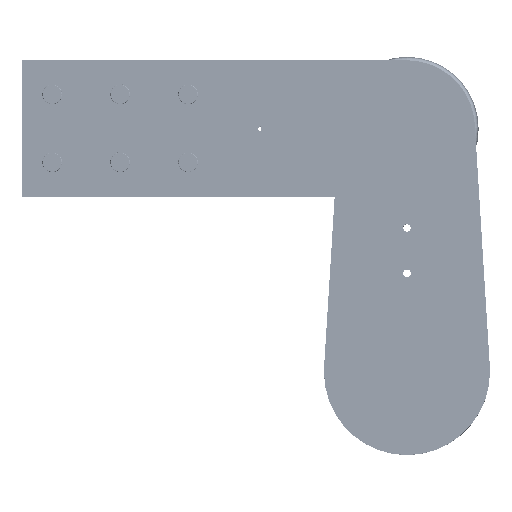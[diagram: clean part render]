
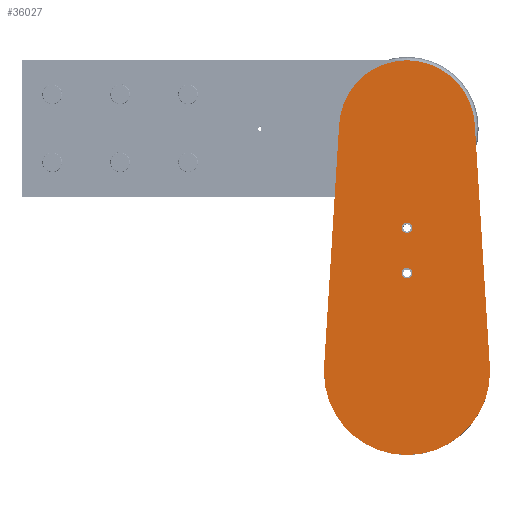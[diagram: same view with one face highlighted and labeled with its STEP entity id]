
A CAD part, top view. The second image highlights one B-rep face of the part: STEP entity #36027.
In plain terms, the highlighted planar face has unit normal (0, 0, 1) as drawn and (0, 0, -1) by its records, which use the part's own axes.
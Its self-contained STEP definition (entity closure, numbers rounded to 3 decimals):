
#807 = DIRECTION ( 'NONE',  ( 1., 0., 0. ) ) ;
#2172 = AXIS2_PLACEMENT_3D ( 'NONE', #74701, #27558, #7900 ) ;
#2453 = EDGE_CURVE ( 'NONE', #76668, #9644, #65711, .T. ) ;
#3041 = DIRECTION ( 'NONE',  ( 1., 0., 0. ) ) ;
#3569 = CARTESIAN_POINT ( 'NONE',  ( 3.5, 95.5, 0. ) ) ;
#3696 = AXIS2_PLACEMENT_3D ( 'NONE', #78602, #78317, #17866 ) ;
#4338 = EDGE_CURVE ( 'NONE', #38020, #83416, #57186, .T. ) ;
#6590 = VERTEX_POINT ( 'NONE', #59150 ) ;
#7900 = DIRECTION ( 'NONE',  ( 1., 0., 0. ) ) ;
#8669 = CIRCLE ( 'NONE', #2172, 55. ) ;
#9237 = CARTESIAN_POINT ( 'NONE',  ( 55., 0., 0. ) ) ;
#9644 = VERTEX_POINT ( 'NONE', #12814 ) ;
#10279 = CARTESIAN_POINT ( 'NONE',  ( 0., 0., 0. ) ) ;
#10839 = DIRECTION ( 'NONE',  ( 0., 0., 1. ) ) ;
#12246 = VERTEX_POINT ( 'NONE', #59219 ) ;
#12814 = CARTESIAN_POINT ( 'NONE',  ( 3.5, 65.5, 0. ) ) ;
#13783 = CIRCLE ( 'NONE', #41302, 3.5 ) ;
#14193 = EDGE_CURVE ( 'NONE', #83416, #38020, #13783, .T. ) ;
#14390 = CARTESIAN_POINT ( 'NONE',  ( 0., 65.5, 0. ) ) ;
#14882 = EDGE_CURVE ( 'NONE', #9644, #76668, #51131, .T. ) ;
#16921 = ORIENTED_EDGE ( 'NONE', *, *, #4338, .F. ) ;
#17866 = DIRECTION ( 'NONE',  ( 1., 0., 0. ) ) ;
#18161 = EDGE_CURVE ( 'NONE', #6590, #12246, #8669, .T. ) ;
#18764 = FACE_BOUND ( 'NONE', #36304, .T. ) ;
#18993 = CARTESIAN_POINT ( 'NONE',  ( 54.894, 3.406, 0. ) ) ;
#19115 = ORIENTED_EDGE ( 'NONE', *, *, #2453, .F. ) ;
#20253 = ORIENTED_EDGE ( 'NONE', *, *, #24502, .F. ) ;
#20849 = CARTESIAN_POINT ( 'NONE',  ( -44.914, 164.286, 0. ) ) ;
#20878 = LINE ( 'NONE', #21436, #59354 ) ;
#21436 = CARTESIAN_POINT ( 'NONE',  ( 44.914, 164.286, 0. ) ) ;
#24034 = VERTEX_POINT ( 'NONE', #71885 ) ;
#24502 = EDGE_CURVE ( 'NONE', #38146, #24034, #67332, .T. ) ;
#26015 = CARTESIAN_POINT ( 'NONE',  ( 0., 95.5, 0. ) ) ;
#26095 = EDGE_LOOP ( 'NONE', ( #85155, #16921 ) ) ;
#27044 = LINE ( 'NONE', #20849, #30126 ) ;
#27556 = ORIENTED_EDGE ( 'NONE', *, *, #18161, .F. ) ;
#27558 = DIRECTION ( 'NONE',  ( 0., 0., 1. ) ) ;
#29205 = EDGE_CURVE ( 'NONE', #78945, #38146, #20878, .T. ) ;
#29267 = DIRECTION ( 'NONE',  ( -0.062, 0.998, 0. ) ) ;
#29322 = AXIS2_PLACEMENT_3D ( 'NONE', #26015, #39954, #79534 ) ;
#30126 = VECTOR ( 'NONE', #53720, 1000. ) ;
#30195 = AXIS2_PLACEMENT_3D ( 'NONE', #14390, #40498, #807 ) ;
#35458 = CARTESIAN_POINT ( 'NONE',  ( 0., 65.5, 0. ) ) ;
#36027 = ADVANCED_FACE ( 'NONE', ( #58292, #18764, #38523 ), #64958, .F. ) ;
#36304 = EDGE_LOOP ( 'NONE', ( #82377, #19115 ) ) ;
#36649 = CARTESIAN_POINT ( 'NONE',  ( -3.5, 95.5, 0. ) ) ;
#38020 = VERTEX_POINT ( 'NONE', #36649 ) ;
#38146 = VERTEX_POINT ( 'NONE', #45486 ) ;
#38523 = FACE_OUTER_BOUND ( 'NONE', #65906, .T. ) ;
#39493 = EDGE_CURVE ( 'NONE', #12246, #55895, #63139, .T. ) ;
#39954 = DIRECTION ( 'NONE',  ( 0., 0., -1. ) ) ;
#39969 = AXIS2_PLACEMENT_3D ( 'NONE', #43850, #10839, #50866 ) ;
#40498 = DIRECTION ( 'NONE',  ( 0., 0., -1. ) ) ;
#41160 = ORIENTED_EDGE ( 'NONE', *, *, #81861, .F. ) ;
#41302 = AXIS2_PLACEMENT_3D ( 'NONE', #63947, #83939, #49939 ) ;
#43794 = CIRCLE ( 'NONE', #62521, 55. ) ;
#43850 = CARTESIAN_POINT ( 'NONE',  ( 0., 161.5, 0. ) ) ;
#45486 = CARTESIAN_POINT ( 'NONE',  ( 44.914, 164.286, 0. ) ) ;
#47235 = ORIENTED_EDGE ( 'NONE', *, *, #39493, .F. ) ;
#47385 = DIRECTION ( 'NONE',  ( 1., 0., 0. ) ) ;
#49939 = DIRECTION ( 'NONE',  ( 1., 0., 0. ) ) ;
#50866 = DIRECTION ( 'NONE',  ( 1., 0., 0. ) ) ;
#51131 = CIRCLE ( 'NONE', #30195, 3.5 ) ;
#53720 = DIRECTION ( 'NONE',  ( -0.062, -0.998, 0. ) ) ;
#54316 = ORIENTED_EDGE ( 'NONE', *, *, #69254, .F. ) ;
#54377 = CARTESIAN_POINT ( 'NONE',  ( -3.5, 65.5, 0. ) ) ;
#55895 = VERTEX_POINT ( 'NONE', #9237 ) ;
#56409 = DIRECTION ( 'NONE',  ( 0., 0., 1. ) ) ;
#57092 = AXIS2_PLACEMENT_3D ( 'NONE', #35458, #81111, #47385 ) ;
#57186 = CIRCLE ( 'NONE', #29322, 3.5 ) ;
#58292 = FACE_BOUND ( 'NONE', #26095, .T. ) ;
#59150 = CARTESIAN_POINT ( 'NONE',  ( -54.894, 3.406, 0. ) ) ;
#59219 = CARTESIAN_POINT ( 'NONE',  ( -55., 0., 0. ) ) ;
#59354 = VECTOR ( 'NONE', #29267, 1000. ) ;
#61325 = AXIS2_PLACEMENT_3D ( 'NONE', #77018, #83378, #69467 ) ;
#62521 = AXIS2_PLACEMENT_3D ( 'NONE', #10279, #56409, #3041 ) ;
#63139 = CIRCLE ( 'NONE', #61325, 55. ) ;
#63947 = CARTESIAN_POINT ( 'NONE',  ( 0., 95.5, 0. ) ) ;
#64958 = PLANE ( 'NONE',  #3696 ) ;
#65711 = CIRCLE ( 'NONE', #57092, 3.5 ) ;
#65906 = EDGE_LOOP ( 'NONE', ( #20253, #71019, #41160, #47235, #27556, #54316 ) ) ;
#67332 = CIRCLE ( 'NONE', #39969, 45. ) ;
#69254 = EDGE_CURVE ( 'NONE', #24034, #6590, #27044, .T. ) ;
#69467 = DIRECTION ( 'NONE',  ( 1., 0., 0. ) ) ;
#71019 = ORIENTED_EDGE ( 'NONE', *, *, #29205, .F. ) ;
#71885 = CARTESIAN_POINT ( 'NONE',  ( -44.914, 164.286, 0. ) ) ;
#74701 = CARTESIAN_POINT ( 'NONE',  ( 0., 0., 0. ) ) ;
#76668 = VERTEX_POINT ( 'NONE', #54377 ) ;
#77018 = CARTESIAN_POINT ( 'NONE',  ( 0., 0., 0. ) ) ;
#78317 = DIRECTION ( 'NONE',  ( 0., 0., 1. ) ) ;
#78602 = CARTESIAN_POINT ( 'NONE',  ( 0., 161.5, 0. ) ) ;
#78945 = VERTEX_POINT ( 'NONE', #18993 ) ;
#79534 = DIRECTION ( 'NONE',  ( 1., 0., 0. ) ) ;
#81111 = DIRECTION ( 'NONE',  ( 0., 0., -1. ) ) ;
#81861 = EDGE_CURVE ( 'NONE', #55895, #78945, #43794, .T. ) ;
#82377 = ORIENTED_EDGE ( 'NONE', *, *, #14882, .F. ) ;
#83378 = DIRECTION ( 'NONE',  ( 0., 0., 1. ) ) ;
#83416 = VERTEX_POINT ( 'NONE', #3569 ) ;
#83939 = DIRECTION ( 'NONE',  ( 0., 0., -1. ) ) ;
#85155 = ORIENTED_EDGE ( 'NONE', *, *, #14193, .F. ) ;
